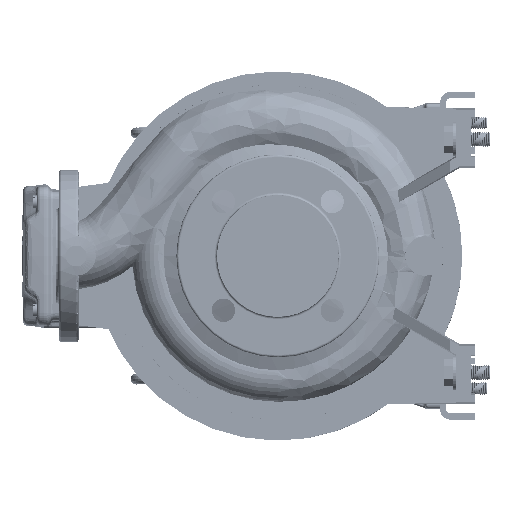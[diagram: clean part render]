
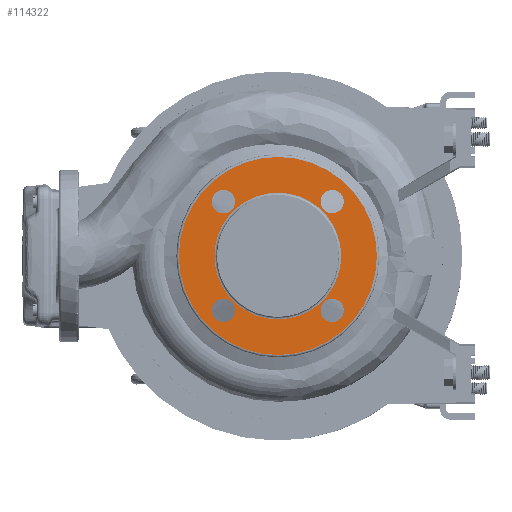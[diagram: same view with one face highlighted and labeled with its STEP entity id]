
A CAD part, left-side view. The second image highlights one B-rep face of the part: STEP entity #114322.
In plain terms, the highlighted planar face has unit normal (-1, 0, 0).
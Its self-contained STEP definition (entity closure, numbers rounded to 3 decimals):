
#1272 = CIRCLE ( 'NONE', #162185, 9.5 ) ;
#4433 = CARTESIAN_POINT ( 'NONE',  ( -121.332, 156.48, 252.281 ) ) ;
#10612 = ORIENTED_EDGE ( 'NONE', *, *, #166422, .T. ) ;
#10653 = VERTEX_POINT ( 'NONE', #83114 ) ;
#11248 = PLANE ( 'NONE',  #30225 ) ;
#14152 = CARTESIAN_POINT ( 'NONE',  ( -121.332, 165.98, 340.669 ) ) ;
#14488 = CIRCLE ( 'NONE', #100896, 51.5 ) ;
#14790 = CARTESIAN_POINT ( 'NONE',  ( -121.332, 156.48, 252.281 ) ) ;
#18278 = EDGE_CURVE ( 'NONE', #180899, #49818, #85124, .T. ) ;
#21017 = DIRECTION ( 'NONE',  ( -1., 0., 0. ) ) ;
#22129 = DIRECTION ( 'NONE',  ( 0., 1., 0. ) ) ;
#26969 = DIRECTION ( 'NONE',  ( 0., 1., 0. ) ) ;
#27652 = VERTEX_POINT ( 'NONE', #80734 ) ;
#28785 = CARTESIAN_POINT ( 'NONE',  ( -121.332, 200.675, 296.475 ) ) ;
#30225 = AXIS2_PLACEMENT_3D ( 'NONE', #151243, #50497, #181042 ) ;
#30459 = EDGE_CURVE ( 'NONE', #122412, #164580, #70712, .T. ) ;
#31702 = CARTESIAN_POINT ( 'NONE',  ( -121.332, 244.869, 340.669 ) ) ;
#33644 = DIRECTION ( 'NONE',  ( 0., 0., 1. ) ) ;
#35299 = DIRECTION ( 'NONE',  ( 0., -1., 0. ) ) ;
#35474 = DIRECTION ( 'NONE',  ( -1., 0., 0. ) ) ;
#35625 = ORIENTED_EDGE ( 'NONE', *, *, #18278, .F. ) ;
#37036 = EDGE_CURVE ( 'NONE', #42676, #106339, #156005, .T. ) ;
#37367 = DIRECTION ( 'NONE',  ( -1., 0., 0. ) ) ;
#37791 = CARTESIAN_POINT ( 'NONE',  ( -121.332, 244.869, 252.281 ) ) ;
#41523 = CARTESIAN_POINT ( 'NONE',  ( -121.332, 146.98, 340.669 ) ) ;
#42676 = VERTEX_POINT ( 'NONE', #14152 ) ;
#43583 = DIRECTION ( 'NONE',  ( 0., 0., -1. ) ) ;
#45734 = DIRECTION ( 'NONE',  ( 0., -1., 0. ) ) ;
#48240 = AXIS2_PLACEMENT_3D ( 'NONE', #108591, #110410, #181283 ) ;
#48590 = CARTESIAN_POINT ( 'NONE',  ( -121.332, 244.869, 252.281 ) ) ;
#49818 = VERTEX_POINT ( 'NONE', #70934 ) ;
#50155 = EDGE_CURVE ( 'NONE', #120318, #27652, #14488, .T. ) ;
#50497 = DIRECTION ( 'NONE',  ( 1., 0., 0. ) ) ;
#51206 = CARTESIAN_POINT ( 'NONE',  ( -121.332, 200.675, 296.475 ) ) ;
#58032 = ORIENTED_EDGE ( 'NONE', *, *, #81415, .T. ) ;
#60215 = CIRCLE ( 'NONE', #48240, 80.5 ) ;
#61442 = CARTESIAN_POINT ( 'NONE',  ( -121.332, 254.369, 252.281 ) ) ;
#62875 = CIRCLE ( 'NONE', #131430, 9.5 ) ;
#62913 = EDGE_CURVE ( 'NONE', #164580, #122412, #107185, .T. ) ;
#64340 = AXIS2_PLACEMENT_3D ( 'NONE', #28785, #182782, #111907 ) ;
#64530 = FACE_BOUND ( 'NONE', #178179, .T. ) ;
#70712 = CIRCLE ( 'NONE', #142204, 9.5 ) ;
#70934 = CARTESIAN_POINT ( 'NONE',  ( -121.332, 254.369, 340.669 ) ) ;
#71731 = DIRECTION ( 'NONE',  ( -1., 0., 0. ) ) ;
#72291 = DIRECTION ( 'NONE',  ( -1., 0., 0. ) ) ;
#73745 = DIRECTION ( 'NONE',  ( -1., 0., 0. ) ) ;
#78704 = ORIENTED_EDGE ( 'NONE', *, *, #87310, .F. ) ;
#80079 = CARTESIAN_POINT ( 'NONE',  ( -121.332, 200.675, 296.475 ) ) ;
#80734 = CARTESIAN_POINT ( 'NONE',  ( -121.332, 252.175, 296.475 ) ) ;
#81415 = EDGE_CURVE ( 'NONE', #113226, #82590, #60215, .T. ) ;
#82195 = CIRCLE ( 'NONE', #64340, 80.5 ) ;
#82590 = VERTEX_POINT ( 'NONE', #130109 ) ;
#83114 = CARTESIAN_POINT ( 'NONE',  ( -121.332, 235.369, 252.281 ) ) ;
#85124 = CIRCLE ( 'NONE', #135724, 9.5 ) ;
#85623 = CIRCLE ( 'NONE', #151156, 9.5 ) ;
#87310 = EDGE_CURVE ( 'NONE', #27652, #120318, #144483, .T. ) ;
#87617 = EDGE_LOOP ( 'NONE', ( #35625, #166279 ) ) ;
#93397 = FACE_BOUND ( 'NONE', #99883, .T. ) ;
#94325 = FACE_BOUND ( 'NONE', #169578, .T. ) ;
#94798 = AXIS2_PLACEMENT_3D ( 'NONE', #37791, #21017, #119914 ) ;
#95627 = ORIENTED_EDGE ( 'NONE', *, *, #176908, .F. ) ;
#95729 = EDGE_LOOP ( 'NONE', ( #10612, #58032 ) ) ;
#99883 = EDGE_LOOP ( 'NONE', ( #156599, #78704 ) ) ;
#100896 = AXIS2_PLACEMENT_3D ( 'NONE', #51206, #108117, #165952 ) ;
#106115 = DIRECTION ( 'NONE',  ( -1., 0., 0. ) ) ;
#106339 = VERTEX_POINT ( 'NONE', #41523 ) ;
#107185 = CIRCLE ( 'NONE', #166885, 9.5 ) ;
#107221 = EDGE_CURVE ( 'NONE', #152659, #10653, #127534, .T. ) ;
#108117 = DIRECTION ( 'NONE',  ( -1., 0., 0. ) ) ;
#108591 = CARTESIAN_POINT ( 'NONE',  ( -121.332, 200.675, 296.475 ) ) ;
#110016 = CARTESIAN_POINT ( 'NONE',  ( -121.332, 165.98, 252.281 ) ) ;
#110410 = DIRECTION ( 'NONE',  ( -1., 0., 0. ) ) ;
#111907 = DIRECTION ( 'NONE',  ( 0., -1., 0. ) ) ;
#113084 = CARTESIAN_POINT ( 'NONE',  ( -121.332, 281.175, 296.475 ) ) ;
#113226 = VERTEX_POINT ( 'NONE', #113084 ) ;
#114322 = ADVANCED_FACE ( 'NONE', ( #167085, #64530, #94325, #178292, #93397, #121387 ), #11248, .F. ) ;
#119914 = DIRECTION ( 'NONE',  ( 0., 0., 1. ) ) ;
#120318 = VERTEX_POINT ( 'NONE', #142939 ) ;
#121387 = FACE_OUTER_BOUND ( 'NONE', #95729, .T. ) ;
#122412 = VERTEX_POINT ( 'NONE', #110016 ) ;
#125766 = EDGE_CURVE ( 'NONE', #49818, #180899, #85623, .T. ) ;
#127534 = CIRCLE ( 'NONE', #94798, 9.5 ) ;
#128247 = DIRECTION ( 'NONE',  ( 0., 0., -1. ) ) ;
#130109 = CARTESIAN_POINT ( 'NONE',  ( -121.332, 120.175, 296.475 ) ) ;
#131430 = AXIS2_PLACEMENT_3D ( 'NONE', #48590, #35474, #33644 ) ;
#133834 = ORIENTED_EDGE ( 'NONE', *, *, #37036, .F. ) ;
#134017 = ORIENTED_EDGE ( 'NONE', *, *, #30459, .F. ) ;
#135724 = AXIS2_PLACEMENT_3D ( 'NONE', #151196, #37367, #148411 ) ;
#141362 = ORIENTED_EDGE ( 'NONE', *, *, #157797, .F. ) ;
#142204 = AXIS2_PLACEMENT_3D ( 'NONE', #14790, #71731, #26969 ) ;
#142939 = CARTESIAN_POINT ( 'NONE',  ( -121.332, 149.175, 296.475 ) ) ;
#144483 = CIRCLE ( 'NONE', #162357, 51.5 ) ;
#147510 = CARTESIAN_POINT ( 'NONE',  ( -121.332, 146.98, 252.281 ) ) ;
#148411 = DIRECTION ( 'NONE',  ( 0., -1., 0. ) ) ;
#151156 = AXIS2_PLACEMENT_3D ( 'NONE', #31702, #73745, #45734 ) ;
#151196 = CARTESIAN_POINT ( 'NONE',  ( -121.332, 244.869, 340.669 ) ) ;
#151243 = CARTESIAN_POINT ( 'NONE',  ( -121.332, 252.175, 296.475 ) ) ;
#152545 = CARTESIAN_POINT ( 'NONE',  ( -121.332, 235.369, 340.669 ) ) ;
#152659 = VERTEX_POINT ( 'NONE', #61442 ) ;
#154671 = DIRECTION ( 'NONE',  ( -1., 0., 0. ) ) ;
#155989 = ORIENTED_EDGE ( 'NONE', *, *, #62913, .F. ) ;
#156005 = CIRCLE ( 'NONE', #168016, 9.5 ) ;
#156599 = ORIENTED_EDGE ( 'NONE', *, *, #50155, .F. ) ;
#157398 = CARTESIAN_POINT ( 'NONE',  ( -121.332, 156.48, 340.669 ) ) ;
#157797 = EDGE_CURVE ( 'NONE', #10653, #152659, #62875, .T. ) ;
#162185 = AXIS2_PLACEMENT_3D ( 'NONE', #184225, #72291, #128247 ) ;
#162357 = AXIS2_PLACEMENT_3D ( 'NONE', #80079, #164994, #35299 ) ;
#164580 = VERTEX_POINT ( 'NONE', #147510 ) ;
#164994 = DIRECTION ( 'NONE',  ( -1., 0., 0. ) ) ;
#165952 = DIRECTION ( 'NONE',  ( 0., -1., 0. ) ) ;
#166279 = ORIENTED_EDGE ( 'NONE', *, *, #125766, .F. ) ;
#166422 = EDGE_CURVE ( 'NONE', #82590, #113226, #82195, .T. ) ;
#166885 = AXIS2_PLACEMENT_3D ( 'NONE', #4433, #106115, #22129 ) ;
#167085 = FACE_BOUND ( 'NONE', #182942, .T. ) ;
#168016 = AXIS2_PLACEMENT_3D ( 'NONE', #157398, #154671, #43583 ) ;
#169578 = EDGE_LOOP ( 'NONE', ( #141362, #170715 ) ) ;
#170715 = ORIENTED_EDGE ( 'NONE', *, *, #107221, .F. ) ;
#176908 = EDGE_CURVE ( 'NONE', #106339, #42676, #1272, .T. ) ;
#178179 = EDGE_LOOP ( 'NONE', ( #155989, #134017 ) ) ;
#178292 = FACE_BOUND ( 'NONE', #87617, .T. ) ;
#180899 = VERTEX_POINT ( 'NONE', #152545 ) ;
#181042 = DIRECTION ( 'NONE',  ( 0., 1., 0. ) ) ;
#181283 = DIRECTION ( 'NONE',  ( 0., -1., 0. ) ) ;
#182782 = DIRECTION ( 'NONE',  ( -1., 0., 0. ) ) ;
#182942 = EDGE_LOOP ( 'NONE', ( #95627, #133834 ) ) ;
#184225 = CARTESIAN_POINT ( 'NONE',  ( -121.332, 156.48, 340.669 ) ) ;
